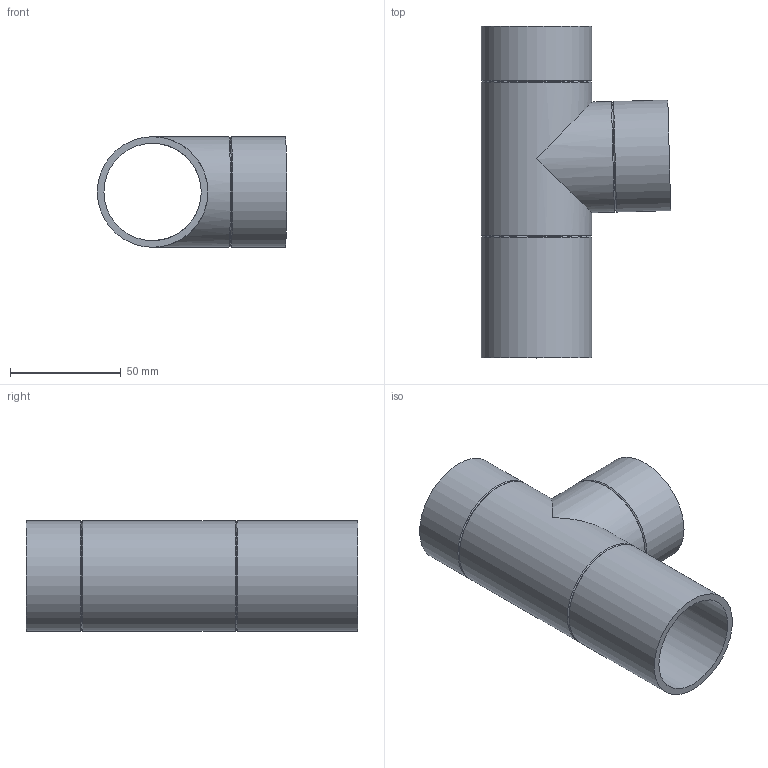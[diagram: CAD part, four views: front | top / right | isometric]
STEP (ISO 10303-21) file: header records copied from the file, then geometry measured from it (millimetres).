
FILE_DESCRIPTION(/* description */ (''),/* implementation_level */ '2;1');
FILE_NAME(/* name */ 'Z:\Geberit\Export\NewStep\361162.stp',/* time_stamp */ '2014-04-01T21:03:37+02:00',/* author */ ('nelson'),/* organization */ (''),/* preprocessor_version */ 'ST-DEVELOPER v15.2',/* originating_system */ 'Autodesk Inventor 2014',/* authorisation */ '');
FILE_SCHEMA (('AUTOMOTIVE_DESIGN { 1 0 10303 214 3 1 1 }'));
Length unit declared in the file: millimetre
Products named in the file (1): 361162
Bounding box: 85.63 x 150 x 50 mm (x, y, z)
Volume: 79629 mm3; surface area: 54657.4 mm2
Topology: 1 solids, 1 shells, 16 faces, 39 edges, 25 vertices
Faces by surface type: cylinder 7, cone 6, plane 3
Full cylindrical faces by diameter (mm): 44 x2, 50 x5
Entity records: 399 total; most frequent: DIRECTION 72, CARTESIAN_POINT 55, ORIENTED_EDGE 38, AXIS2_PLACEMENT_3D 36, EDGE_LOOP 34, FACE_BOUND 22, VERTEX_POINT 19, EDGE_CURVE 19
